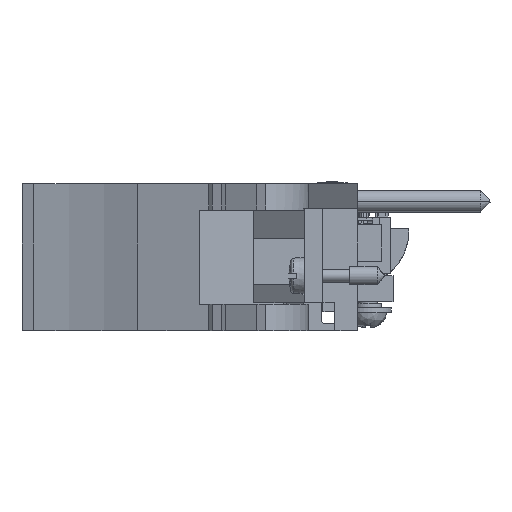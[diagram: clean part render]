
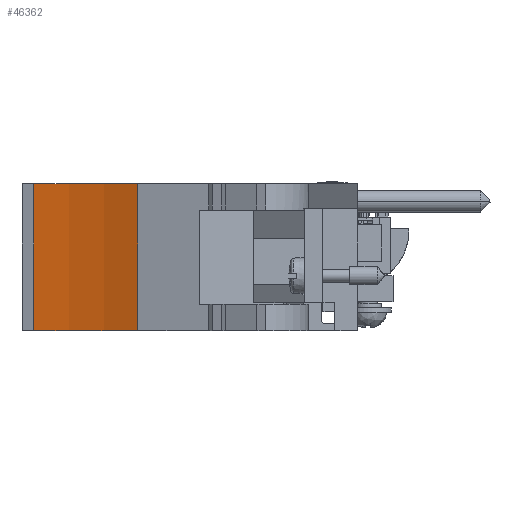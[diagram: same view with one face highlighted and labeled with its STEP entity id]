
A CAD part, front view. The second image highlights one B-rep face of the part: STEP entity #46362.
In plain terms, the highlighted cylindrical face has radius 51.46 mm (diameter 102.919 mm), a partial arc.
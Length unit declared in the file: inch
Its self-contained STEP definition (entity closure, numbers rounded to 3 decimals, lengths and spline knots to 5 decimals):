
#978=CARTESIAN_POINT('',(-1.9742,-5.95044,-0.09388));
#979=DIRECTION('',(0.,0.,1.));
#980=DIRECTION('',(0.435,0.9,0.));
#981=AXIS2_PLACEMENT_3D('',#978,#979,#980);
#9968=CARTESIAN_POINT('',(-1.9742,-5.95044,0.69412));
#9969=DIRECTION('',(0.,0.,1.));
#9970=DIRECTION('',(0.435,0.9,0.));
#9971=AXIS2_PLACEMENT_3D('',#9968,#9969,#9970);
#10239=DIRECTION('',(0.,0.,1.));
#10240=VECTOR('',#10239,0.788);
#10241=CARTESIAN_POINT('',(-1.65087,-3.95044,-0.09388));
#10242=LINE('',#10241,#10240);
#10247=DIRECTION('',(0.,0.,1.));
#10248=VECTOR('',#10247,0.788);
#10249=CARTESIAN_POINT('',(-1.09289,-4.1262,
-0.09388));
#10250=LINE('',#10249,#10248);
#25528=CARTESIAN_POINT('',(-1.09289,-4.1262,
-0.09388));
#25529=CARTESIAN_POINT('',(-1.65087,-3.95044,-0.09388));
#25530=VERTEX_POINT('',#25528);
#25531=VERTEX_POINT('',#25529);
#25532=CARTESIAN_POINT('',(-1.09289,-4.1262,
0.69412));
#25533=CARTESIAN_POINT('',(-1.65087,-3.95044,0.69412));
#25534=VERTEX_POINT('',#25532);
#25535=VERTEX_POINT('',#25533);
#46350=CARTESIAN_POINT('',(-1.9742,-5.95044,0.69412));
#46351=DIRECTION('',(0.,0.,1.));
#46352=DIRECTION('',(0.,1.,0.));
#46353=AXIS2_PLACEMENT_3D('',#46350,#46351,#46352);
#46354=CYLINDRICAL_SURFACE('',#46353,2.02597);
#46355=ORIENTED_EDGE('',*,*,#34731,.T.);
#46356=ORIENTED_EDGE('',*,*,#46342,.T.);
#46357=ORIENTED_EDGE('',*,*,#45947,.F.);
#46359=ORIENTED_EDGE('',*,*,#46358,.F.);
#46360=EDGE_LOOP('',(#46355,#46356,#46357,#46359));
#46361=FACE_OUTER_BOUND('',#46360,.F.);
#46362=ADVANCED_FACE('',(#46361),#46354,.F.);
#982=CIRCLE('',#981,2.02597);
#9972=CIRCLE('',#9971,2.02597);
#34731=EDGE_CURVE('',#25530,#25531,#982,.T.);
#45947=EDGE_CURVE('',#25534,#25535,#9972,.T.);
#46342=EDGE_CURVE('',#25531,#25535,#10242,.T.);
#46358=EDGE_CURVE('',#25530,#25534,#10250,.T.);
